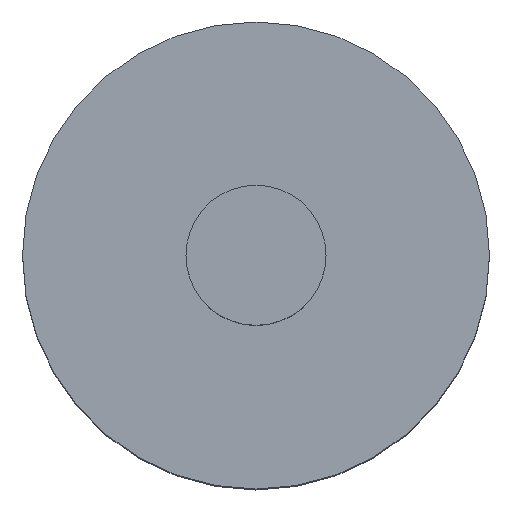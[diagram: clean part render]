
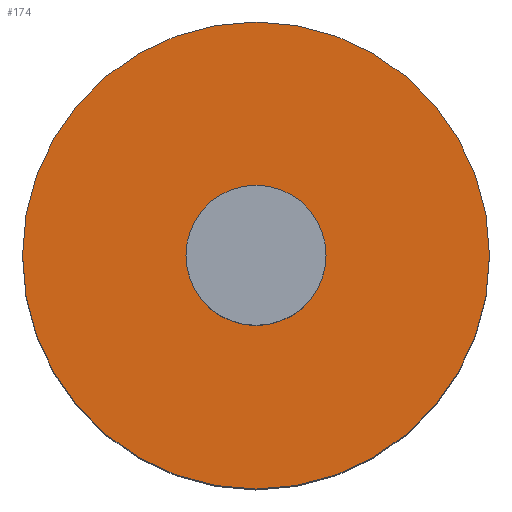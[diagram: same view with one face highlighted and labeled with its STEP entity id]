
A CAD part, top view. The second image highlights one B-rep face of the part: STEP entity #174.
In plain terms, the highlighted planar face has unit normal (0, 0, 1).
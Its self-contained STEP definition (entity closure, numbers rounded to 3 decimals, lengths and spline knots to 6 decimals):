
#174=ADVANCED_FACE('4:177',(#215,#216),#217,.F.);
#215=FACE_BOUND('',#285,.T.);
#216=FACE_OUTER_BOUND('',#286,.T.);
#217=PLANE('',#287);
#285=EDGE_LOOP('',(#382,#383));
#286=EDGE_LOOP('',(#384,#385));
#287=AXIS2_PLACEMENT_3D('',#386,#387,#388);
#382=ORIENTED_EDGE('',*,*,#548,.F.);
#383=ORIENTED_EDGE('',*,*,#553,.F.);
#384=ORIENTED_EDGE('',*,*,#538,.F.);
#385=ORIENTED_EDGE('',*,*,#555,.F.);
#386=CARTESIAN_POINT('',(0.,0.0,0.047));
#387=DIRECTION('',(0.,0.0,-1.0));
#388=DIRECTION('',(-1.0,0.0,0.));
#538=EDGE_CURVE('4:204',#595,#598,#599,.T.);
#548=EDGE_CURVE('4:198',#616,#612,#618,.T.);
#553=EDGE_CURVE('4:198',#612,#616,#626,.T.);
#555=EDGE_CURVE('4:204',#598,#595,#628,.T.);
#595=VERTEX_POINT('',#687);
#598=VERTEX_POINT('',#691);
#599=CIRCLE('',#692,0.02);
#612=VERTEX_POINT('',#708);
#616=VERTEX_POINT('',#713);
#618=CIRCLE('',#716,0.006);
#626=CIRCLE('',#724,0.006);
#628=CIRCLE('',#726,0.02);
#687=CARTESIAN_POINT('',(-0.02,0.0,0.047));
#691=CARTESIAN_POINT('',(0.02,0.,0.047));
#692=AXIS2_PLACEMENT_3D('',#794,#795,#796);
#708=CARTESIAN_POINT('',(-0.006,0.,0.047));
#713=CARTESIAN_POINT('',(0.006,0.0,0.047));
#716=AXIS2_PLACEMENT_3D('',#814,#815,#816);
#724=AXIS2_PLACEMENT_3D('',#829,#830,#831);
#726=AXIS2_PLACEMENT_3D('',#835,#836,#837);
#794=CARTESIAN_POINT('',(0.,0.0,0.047));
#795=DIRECTION('',(0.,0.0,-1.0));
#796=DIRECTION('',(-1.0,0.0,0.));
#814=CARTESIAN_POINT('',(0.,0.0,0.047));
#815=DIRECTION('',(0.,0.0,1.0));
#816=DIRECTION('',(1.0,0.0,0.));
#829=CARTESIAN_POINT('',(0.,0.0,0.047));
#830=DIRECTION('',(0.,0.0,1.0));
#831=DIRECTION('',(1.0,0.0,0.));
#835=CARTESIAN_POINT('',(0.,0.0,0.047));
#836=DIRECTION('',(0.,0.0,-1.0));
#837=DIRECTION('',(-1.0,0.0,0.));
